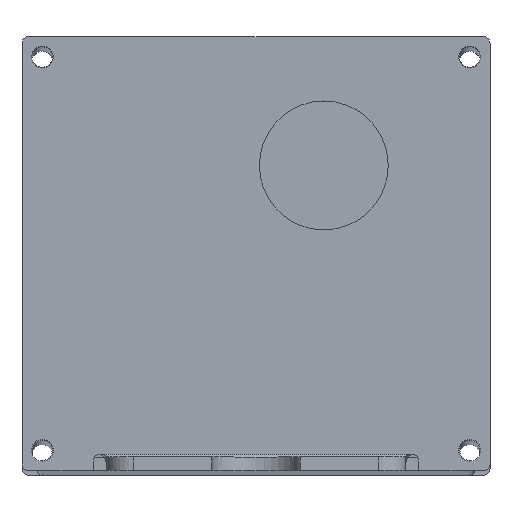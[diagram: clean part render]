
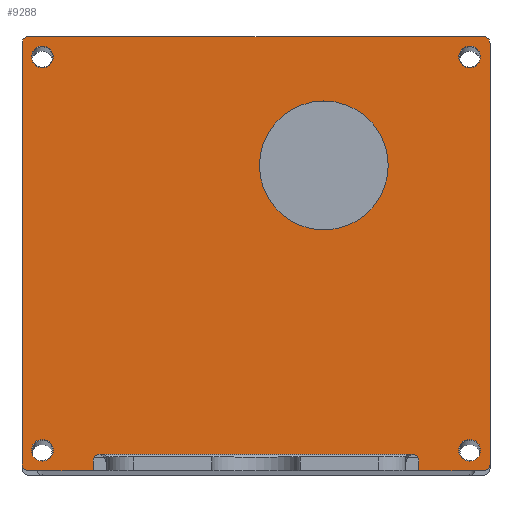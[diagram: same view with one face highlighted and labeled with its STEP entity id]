
A CAD part, top view. The second image highlights one B-rep face of the part: STEP entity #9288.
In plain terms, the highlighted planar face has unit normal (0, 0, 1).
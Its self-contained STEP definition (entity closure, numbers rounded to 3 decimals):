
#8311=CARTESIAN_POINT('',(-15.75,-14.5,1.));
#8312=DIRECTION('',(0.,0.,1.));
#8313=DIRECTION('',(-1.,0.,0.));
#8314=AXIS2_PLACEMENT_3D('',#8311,#8312,#8313);
#8319=CARTESIAN_POINT('',(-15.75,-14.5,1.));
#8320=DIRECTION('',(0.,0.,1.));
#8321=DIRECTION('',(1.,0.,0.));
#8322=AXIS2_PLACEMENT_3D('',#8319,#8320,#8321);
#8327=CARTESIAN_POINT('',(15.75,-14.5,1.));
#8328=DIRECTION('',(0.,0.,1.));
#8329=DIRECTION('',(-1.,0.,0.));
#8330=AXIS2_PLACEMENT_3D('',#8327,#8328,#8329);
#8335=CARTESIAN_POINT('',(15.75,-14.5,1.));
#8336=DIRECTION('',(0.,0.,1.));
#8337=DIRECTION('',(1.,0.,0.));
#8338=AXIS2_PLACEMENT_3D('',#8335,#8336,#8337);
#8343=CARTESIAN_POINT('',(15.75,14.5,1.));
#8344=DIRECTION('',(0.,0.,1.));
#8345=DIRECTION('',(-1.,0.,0.));
#8346=AXIS2_PLACEMENT_3D('',#8343,#8344,#8345);
#8351=CARTESIAN_POINT('',(15.75,14.5,1.));
#8352=DIRECTION('',(0.,0.,1.));
#8353=DIRECTION('',(1.,0.,0.));
#8354=AXIS2_PLACEMENT_3D('',#8351,#8352,#8353);
#8359=CARTESIAN_POINT('',(-15.75,14.5,1.));
#8360=DIRECTION('',(0.,0.,1.));
#8361=DIRECTION('',(-1.,0.,0.));
#8362=AXIS2_PLACEMENT_3D('',#8359,#8360,#8361);
#8367=CARTESIAN_POINT('',(-15.75,14.5,1.));
#8368=DIRECTION('',(0.,0.,1.));
#8369=DIRECTION('',(1.,0.,0.));
#8370=AXIS2_PLACEMENT_3D('',#8367,#8368,#8369);
#8375=CARTESIAN_POINT('',(5.,6.5,1.));
#8376=DIRECTION('',(0.,0.,1.));
#8377=DIRECTION('',(-1.,0.,0.));
#8378=AXIS2_PLACEMENT_3D('',#8375,#8376,#8377);
#8383=CARTESIAN_POINT('',(5.,6.5,1.));
#8384=DIRECTION('',(0.,0.,1.));
#8385=DIRECTION('',(1.,0.,0.));
#8386=AXIS2_PLACEMENT_3D('',#8383,#8384,#8385);
#8391=CARTESIAN_POINT('',(-16.75,15.5,1.));
#8392=DIRECTION('',(0.,0.,1.));
#8393=DIRECTION('',(0.,1.,0.));
#8394=AXIS2_PLACEMENT_3D('',#8391,#8392,#8393);
#8399=DIRECTION('',(-1.,0.,0.));
#8400=VECTOR('',#8399,33.5);
#8401=CARTESIAN_POINT('',(16.75,16.,1.));
#8402=LINE('',#8401,#8400);
#8406=CARTESIAN_POINT('',(16.75,15.5,1.));
#8407=DIRECTION('',(0.,0.,1.));
#8408=DIRECTION('',(1.,0.,0.));
#8409=AXIS2_PLACEMENT_3D('',#8406,#8407,#8408);
#8414=DIRECTION('',(0.,1.,0.));
#8415=VECTOR('',#8414,31.);
#8416=CARTESIAN_POINT('',(17.25,-15.5,1.));
#8417=LINE('',#8416,#8415);
#8421=CARTESIAN_POINT('',(16.75,-15.5,1.));
#8422=DIRECTION('',(0.,0.,1.));
#8423=DIRECTION('',(0.,-1.,0.));
#8424=AXIS2_PLACEMENT_3D('',#8421,#8422,#8423);
#8429=DIRECTION('',(1.,0.,0.));
#8430=VECTOR('',#8429,4.75);
#8431=CARTESIAN_POINT('',(12.,-16.,1.));
#8432=LINE('',#8431,#8430);
#8436=DIRECTION('',(0.,1.,0.));
#8437=VECTOR('',#8436,0.7);
#8438=CARTESIAN_POINT('',(12.,-16.,1.));
#8439=LINE('',#8438,#8437);
#8443=CARTESIAN_POINT('',(11.5,-15.3,1.));
#8444=DIRECTION('',(0.,0.,1.));
#8445=DIRECTION('',(1.,0.,0.));
#8446=AXIS2_PLACEMENT_3D('',#8443,#8444,#8445);
#8451=CARTESIAN_POINT('',(-11.5,-15.3,1.));
#8452=DIRECTION('',(0.,0.,-1.));
#8453=DIRECTION('',(-1.,0.,0.));
#8454=AXIS2_PLACEMENT_3D('',#8451,#8452,#8453);
#8459=DIRECTION('',(0.,1.,0.));
#8460=VECTOR('',#8459,0.7);
#8461=CARTESIAN_POINT('',(-12.,-16.,1.));
#8462=LINE('',#8461,#8460);
#8466=DIRECTION('',(1.,0.,0.));
#8467=VECTOR('',#8466,4.75);
#8468=CARTESIAN_POINT('',(-16.75,-16.,1.));
#8469=LINE('',#8468,#8467);
#8473=CARTESIAN_POINT('',(-16.75,-15.5,1.));
#8474=DIRECTION('',(0.,0.,1.));
#8475=DIRECTION('',(-1.,0.,0.));
#8476=AXIS2_PLACEMENT_3D('',#8473,#8474,#8475);
#8481=DIRECTION('',(0.,-1.,0.));
#8482=VECTOR('',#8481,31.);
#8483=CARTESIAN_POINT('',(-17.25,15.5,1.));
#8484=LINE('',#8483,#8482);
#8724=DIRECTION('',(1.,0.,0.));
#8725=VECTOR('',#8724,23.);
#8726=CARTESIAN_POINT('',(-11.5,-14.8,1.));
#8727=LINE('',#8726,#8725);
#8980=CARTESIAN_POINT('',(-12.,-15.3,1.));
#8981=CARTESIAN_POINT('',(-11.5,-14.8,1.));
#8982=VERTEX_POINT('',#8980);
#8983=VERTEX_POINT('',#8981);
#8984=CARTESIAN_POINT('',(-12.,-16.,1.));
#8985=VERTEX_POINT('',#8984);
#8996=CARTESIAN_POINT('',(12.,-15.3,1.));
#8997=CARTESIAN_POINT('',(11.5,-14.8,1.));
#8998=VERTEX_POINT('',#8996);
#8999=VERTEX_POINT('',#8997);
#9000=CARTESIAN_POINT('',(12.,-16.,1.));
#9001=VERTEX_POINT('',#9000);
#9042=CARTESIAN_POINT('',(0.25,6.5,1.));
#9043=CARTESIAN_POINT('',(9.75,6.5,1.));
#9044=VERTEX_POINT('',#9042);
#9045=VERTEX_POINT('',#9043);
#9050=CARTESIAN_POINT('',(-16.75,16.,1.));
#9051=VERTEX_POINT('',#9050);
#9052=CARTESIAN_POINT('',(-17.25,15.5,1.));
#9053=VERTEX_POINT('',#9052);
#9058=CARTESIAN_POINT('',(17.25,15.5,1.));
#9059=VERTEX_POINT('',#9058);
#9060=CARTESIAN_POINT('',(16.75,16.,1.));
#9061=VERTEX_POINT('',#9060);
#9066=CARTESIAN_POINT('',(16.75,-16.,1.));
#9067=VERTEX_POINT('',#9066);
#9068=CARTESIAN_POINT('',(17.25,-15.5,1.));
#9069=VERTEX_POINT('',#9068);
#9074=CARTESIAN_POINT('',(-17.25,-15.5,1.));
#9075=VERTEX_POINT('',#9074);
#9076=CARTESIAN_POINT('',(-16.75,-16.,1.));
#9077=VERTEX_POINT('',#9076);
#9094=CARTESIAN_POINT('',(-16.55,14.5,1.));
#9095=CARTESIAN_POINT('',(-14.95,14.5,1.));
#9096=VERTEX_POINT('',#9094);
#9097=VERTEX_POINT('',#9095);
#9098=CARTESIAN_POINT('',(14.95,14.5,1.));
#9099=CARTESIAN_POINT('',(16.55,14.5,1.));
#9100=VERTEX_POINT('',#9098);
#9101=VERTEX_POINT('',#9099);
#9102=CARTESIAN_POINT('',(14.95,-14.5,1.));
#9103=CARTESIAN_POINT('',(16.55,-14.5,1.));
#9104=VERTEX_POINT('',#9102);
#9105=VERTEX_POINT('',#9103);
#9106=CARTESIAN_POINT('',(-16.55,-14.5,1.));
#9107=CARTESIAN_POINT('',(-14.95,-14.5,1.));
#9108=VERTEX_POINT('',#9106);
#9109=VERTEX_POINT('',#9107);
#9225=CARTESIAN_POINT('',(0.,0.,1.));
#9226=DIRECTION('',(0.,0.,1.));
#9227=DIRECTION('',(1.,0.,0.));
#9228=AXIS2_PLACEMENT_3D('',#9225,#9226,#9227);
#9229=PLANE('',#9228);
#9231=ORIENTED_EDGE('',*,*,#9230,.F.);
#9233=ORIENTED_EDGE('',*,*,#9232,.F.);
#9235=ORIENTED_EDGE('',*,*,#9234,.F.);
#9237=ORIENTED_EDGE('',*,*,#9236,.F.);
#9239=ORIENTED_EDGE('',*,*,#9238,.F.);
#9241=ORIENTED_EDGE('',*,*,#9240,.F.);
#9243=ORIENTED_EDGE('',*,*,#9242,.T.);
#9245=ORIENTED_EDGE('',*,*,#9244,.T.);
#9247=ORIENTED_EDGE('',*,*,#9246,.F.);
#9249=ORIENTED_EDGE('',*,*,#9248,.F.);
#9251=ORIENTED_EDGE('',*,*,#9250,.F.);
#9253=ORIENTED_EDGE('',*,*,#9252,.F.);
#9255=ORIENTED_EDGE('',*,*,#9254,.F.);
#9257=ORIENTED_EDGE('',*,*,#9256,.F.);
#9258=EDGE_LOOP('',(#9231,#9233,#9235,#9237,#9239,#9241,#9243,#9245,#9247,#9249,
#9251,#9253,#9255,#9257));
#9259=FACE_OUTER_BOUND('',#9258,.F.);
#9261=ORIENTED_EDGE('',*,*,#9260,.T.);
#9263=ORIENTED_EDGE('',*,*,#9262,.T.);
#9264=EDGE_LOOP('',(#9261,#9263));
#9265=FACE_BOUND('',#9264,.F.);
#9267=ORIENTED_EDGE('',*,*,#9266,.T.);
#9269=ORIENTED_EDGE('',*,*,#9268,.T.);
#9270=EDGE_LOOP('',(#9267,#9269));
#9271=FACE_BOUND('',#9270,.F.);
#9272=ORIENTED_EDGE('',*,*,#9191,.T.);
#9273=ORIENTED_EDGE('',*,*,#9212,.T.);
#9274=EDGE_LOOP('',(#9272,#9273));
#9275=FACE_BOUND('',#9274,.F.);
#9277=ORIENTED_EDGE('',*,*,#9276,.T.);
#9279=ORIENTED_EDGE('',*,*,#9278,.T.);
#9280=EDGE_LOOP('',(#9277,#9279));
#9281=FACE_BOUND('',#9280,.F.);
#9283=ORIENTED_EDGE('',*,*,#9282,.T.);
#9285=ORIENTED_EDGE('',*,*,#9284,.T.);
#9286=EDGE_LOOP('',(#9283,#9285));
#9287=FACE_BOUND('',#9286,.F.);
#9288=ADVANCED_FACE('',(#9259,#9265,#9271,#9275,#9281,#9287),#9229,.T.);
#8315=CIRCLE('',#8314,0.8);
#8323=CIRCLE('',#8322,0.8);
#8331=CIRCLE('',#8330,0.8);
#8339=CIRCLE('',#8338,0.8);
#8347=CIRCLE('',#8346,0.8);
#8355=CIRCLE('',#8354,0.8);
#8363=CIRCLE('',#8362,0.8);
#8371=CIRCLE('',#8370,0.8);
#8379=CIRCLE('',#8378,4.75);
#8387=CIRCLE('',#8386,4.75);
#8395=CIRCLE('',#8394,0.5);
#8410=CIRCLE('',#8409,0.5);
#8425=CIRCLE('',#8424,0.5);
#8447=CIRCLE('',#8446,0.5);
#8455=CIRCLE('',#8454,0.5);
#8477=CIRCLE('',#8476,0.5);
#9191=EDGE_CURVE('',#9096,#9097,#8363,.T.);
#9212=EDGE_CURVE('',#9097,#9096,#8371,.T.);
#9230=EDGE_CURVE('',#9051,#9053,#8395,.T.);
#9232=EDGE_CURVE('',#9061,#9051,#8402,.T.);
#9234=EDGE_CURVE('',#9059,#9061,#8410,.T.);
#9236=EDGE_CURVE('',#9069,#9059,#8417,.T.);
#9238=EDGE_CURVE('',#9067,#9069,#8425,.T.);
#9240=EDGE_CURVE('',#9001,#9067,#8432,.T.);
#9242=EDGE_CURVE('',#9001,#8998,#8439,.T.);
#9244=EDGE_CURVE('',#8998,#8999,#8447,.T.);
#9246=EDGE_CURVE('',#8983,#8999,#8727,.T.);
#9248=EDGE_CURVE('',#8982,#8983,#8455,.T.);
#9250=EDGE_CURVE('',#8985,#8982,#8462,.T.);
#9252=EDGE_CURVE('',#9077,#8985,#8469,.T.);
#9254=EDGE_CURVE('',#9075,#9077,#8477,.T.);
#9256=EDGE_CURVE('',#9053,#9075,#8484,.T.);
#9260=EDGE_CURVE('',#9104,#9105,#8331,.T.);
#9262=EDGE_CURVE('',#9105,#9104,#8339,.T.);
#9266=EDGE_CURVE('',#9100,#9101,#8347,.T.);
#9268=EDGE_CURVE('',#9101,#9100,#8355,.T.);
#9276=EDGE_CURVE('',#9044,#9045,#8379,.T.);
#9278=EDGE_CURVE('',#9045,#9044,#8387,.T.);
#9282=EDGE_CURVE('',#9108,#9109,#8315,.T.);
#9284=EDGE_CURVE('',#9109,#9108,#8323,.T.);
